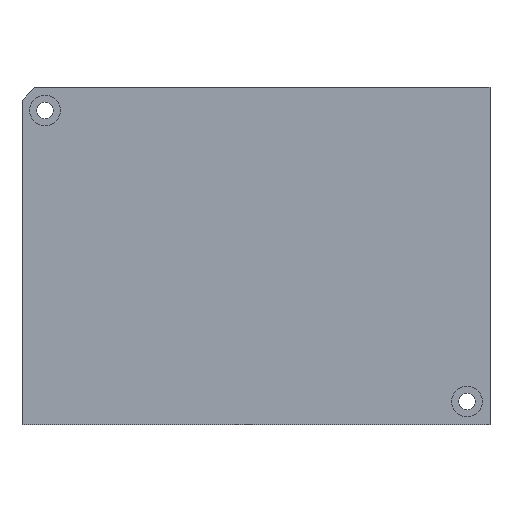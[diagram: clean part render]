
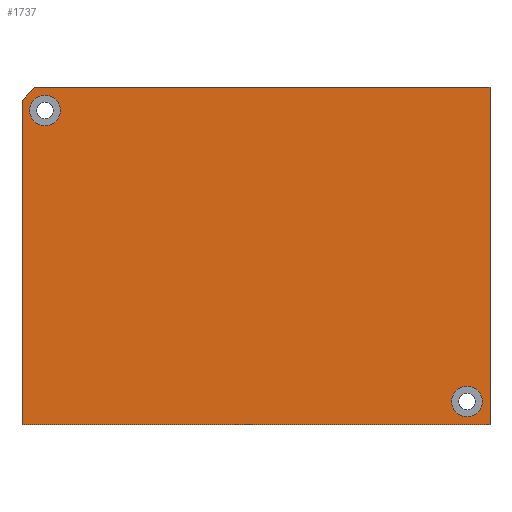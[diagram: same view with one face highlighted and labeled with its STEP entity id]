
A CAD part, front view. The second image highlights one B-rep face of the part: STEP entity #1737.
In plain terms, the highlighted planar face has unit normal (0, -1, 0).
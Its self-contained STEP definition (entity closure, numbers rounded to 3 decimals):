
#49=FACE_BOUND('',#595,.T.);
#50=FACE_BOUND('',#596,.T.);
#66=LINE('',#2501,#263);
#151=LINE('',#2719,#348);
#153=LINE('',#2722,#350);
#154=LINE('',#2724,#351);
#155=LINE('',#2725,#352);
#263=VECTOR('',#1995,10.);
#348=VECTOR('',#2192,10.);
#350=VECTOR('',#2196,10.);
#351=VECTOR('',#2197,10.);
#352=VECTOR('',#2198,10.);
#488=FACE_OUTER_BOUND('',#594,.T.);
#594=EDGE_LOOP('',(#1319,#1320,#1321,#1322,#1323));
#595=EDGE_LOOP('',(#1324));
#596=EDGE_LOOP('',(#1325));
#680=CIRCLE('',#1856,1.2);
#686=CIRCLE('',#1867,1.2);
#720=VERTEX_POINT('',#2486);
#727=VERTEX_POINT('',#2499);
#763=VERTEX_POINT('',#2595);
#769=VERTEX_POINT('',#2615);
#803=VERTEX_POINT('',#2716);
#804=VERTEX_POINT('',#2718);
#805=VERTEX_POINT('',#2723);
#893=EDGE_CURVE('',#727,#720,#66,.T.);
#938=EDGE_CURVE('',#763,#763,#680,.T.);
#947=EDGE_CURVE('',#769,#769,#686,.T.);
#1002=EDGE_CURVE('',#803,#804,#151,.T.);
#1004=EDGE_CURVE('',#804,#727,#153,.T.);
#1005=EDGE_CURVE('',#805,#803,#154,.T.);
#1006=EDGE_CURVE('',#720,#805,#155,.T.);
#1319=ORIENTED_EDGE('',*,*,#1004,.F.);
#1320=ORIENTED_EDGE('',*,*,#1002,.F.);
#1321=ORIENTED_EDGE('',*,*,#1005,.F.);
#1322=ORIENTED_EDGE('',*,*,#1006,.F.);
#1323=ORIENTED_EDGE('',*,*,#893,.F.);
#1324=ORIENTED_EDGE('',*,*,#938,.T.);
#1325=ORIENTED_EDGE('',*,*,#947,.T.);
#1653=PLANE('',#1886);
#1737=ADVANCED_FACE('',(#488,#49,#50),#1653,.T.);
#1856=AXIS2_PLACEMENT_3D('',#2596,#2080,#2081);
#1867=AXIS2_PLACEMENT_3D('',#2616,#2105,#2106);
#1886=AXIS2_PLACEMENT_3D('',#2721,#2194,#2195);
#1995=DIRECTION('',(1.,0.,0.));
#2080=DIRECTION('center_axis',(0.,1.,0.));
#2081=DIRECTION('ref_axis',(1.,0.,0.));
#2105=DIRECTION('center_axis',(0.,1.,0.));
#2106=DIRECTION('ref_axis',(-1.,0.,0.));
#2192=DIRECTION('',(0.,0.,1.));
#2194=DIRECTION('center_axis',(0.,-1.,0.));
#2195=DIRECTION('ref_axis',(0.,0.,-1.));
#2196=DIRECTION('',(0.707,0.,0.707));
#2197=DIRECTION('',(-1.,0.,0.));
#2198=DIRECTION('',(0.,0.,-1.));
#2486=CARTESIAN_POINT('',(36.5,0.,26.3));
#2499=CARTESIAN_POINT('',(1.,0.,26.3));
#2501=CARTESIAN_POINT('',(0.,0.,26.3));
#2595=CARTESIAN_POINT('',(0.6,0.,24.5));
#2596=CARTESIAN_POINT('Origin',(1.8,0.,24.5));
#2615=CARTESIAN_POINT('',(35.9,0.,1.8));
#2616=CARTESIAN_POINT('Origin',(34.7,0.,1.8));
#2716=CARTESIAN_POINT('',(0.,0.,0.));
#2718=CARTESIAN_POINT('',(0.,0.,25.3));
#2719=CARTESIAN_POINT('',(0.,0.,0.));
#2721=CARTESIAN_POINT('Origin',(18.25,0.,13.15));
#2722=CARTESIAN_POINT('',(1.775,0.,27.075));
#2723=CARTESIAN_POINT('',(36.5,0.,0.));
#2724=CARTESIAN_POINT('',(36.5,0.,0.));
#2725=CARTESIAN_POINT('',(36.5,0.,26.3));
